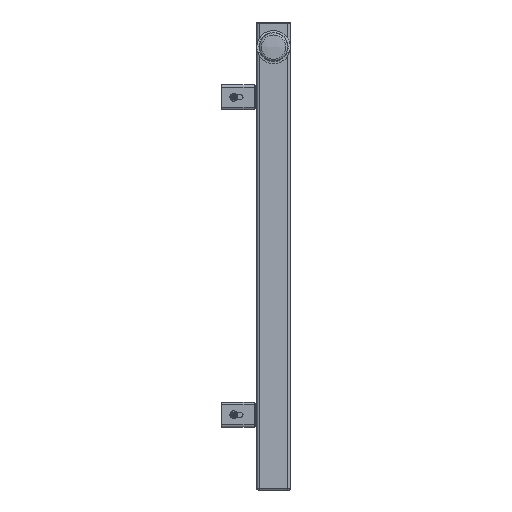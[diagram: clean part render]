
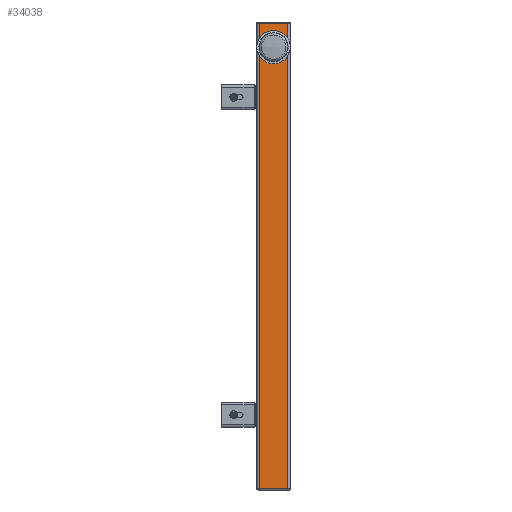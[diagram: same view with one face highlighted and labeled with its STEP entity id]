
A CAD part, left-side view. The second image highlights one B-rep face of the part: STEP entity #34038.
In plain terms, the highlighted planar face has unit normal (-1, 0, 0).
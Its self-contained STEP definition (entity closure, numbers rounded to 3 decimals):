
#33415=CARTESIAN_POINT('',(-40.,-17.0,1.5));
#33416=VERTEX_POINT('',#33415);
#33459=CARTESIAN_POINT('',(-40.,17.0,1.5));
#33460=VERTEX_POINT('',#33459);
#33477=CARTESIAN_POINT('',(-40.,-17.0,1.5));
#33478=DIRECTION('',(0.0,1.0,0.0));
#33479=VECTOR('',#33478,34.0);
#33480=LINE('',#33477,#33479);
#33481=EDGE_CURVE('',#33416,#33460,#33480,.T.);
#33985=CARTESIAN_POINT('',(-40.,17.0,558.5));
#33986=VERTEX_POINT('',#33985);
#33987=CARTESIAN_POINT('',(-40.,17.0,1.5));
#33988=DIRECTION('',(0.0,0.0,1.0));
#33989=VECTOR('',#33988,557.0);
#33990=LINE('',#33987,#33989);
#33991=EDGE_CURVE('',#33460,#33986,#33990,.T.);
#34004=CARTESIAN_POINT('',(-40.,-17.0,0.0));
#34005=DIRECTION('',(-1.0,0.0,0.0));
#34006=DIRECTION('',(0.0,0.0,1.0));
#34007=AXIS2_PLACEMENT_3D('',#34004,#34005,#34006);
#34008=PLANE('',#34007);
#34009=ORIENTED_EDGE('',*,*,#33481,.F.);
#34010=CARTESIAN_POINT('',(-40.,-17.0,558.5));
#34011=VERTEX_POINT('',#34010);
#34012=CARTESIAN_POINT('',(-40.,-17.0,1.5));
#34013=DIRECTION('',(0.0,0.0,1.0));
#34014=VECTOR('',#34013,557.0);
#34015=LINE('',#34012,#34014);
#34016=EDGE_CURVE('',#33416,#34011,#34015,.T.);
#34017=ORIENTED_EDGE('',*,*,#34016,.T.);
#34018=CARTESIAN_POINT('',(-40.,17.,558.5));
#34019=DIRECTION('',(0.0,-1.0,0.0));
#34020=VECTOR('',#34019,34.0);
#34021=LINE('',#34018,#34020);
#34022=EDGE_CURVE('',#33986,#34011,#34021,.T.);
#34023=ORIENTED_EDGE('',*,*,#34022,.F.);
#34024=ORIENTED_EDGE('',*,*,#33991,.F.);
#34025=EDGE_LOOP('',(#34009,#34017,#34023,#34024));
#34026=FACE_OUTER_BOUND('',#34025,.T.);
#34027=CARTESIAN_POINT('',(-40.,0.,545.0));
#34028=VERTEX_POINT('',#34027);
#34029=CARTESIAN_POINT('',(-40.,0.0,530.0));
#34030=DIRECTION('',(1.0,0.0,0.0));
#34031=DIRECTION('',(0.0,0.0,-1.0));
#34032=AXIS2_PLACEMENT_3D('',#34029,#34030,#34031);
#34033=CIRCLE('',#34032,15.0);
#34034=EDGE_CURVE('',#34028,#34028,#34033,.T.);
#34035=ORIENTED_EDGE('',*,*,#34034,.T.);
#34036=EDGE_LOOP('',(#34035));
#34037=FACE_BOUND('',#34036,.T.);
#34038=ADVANCED_FACE('',(#34026,#34037),#34008,.T.);
